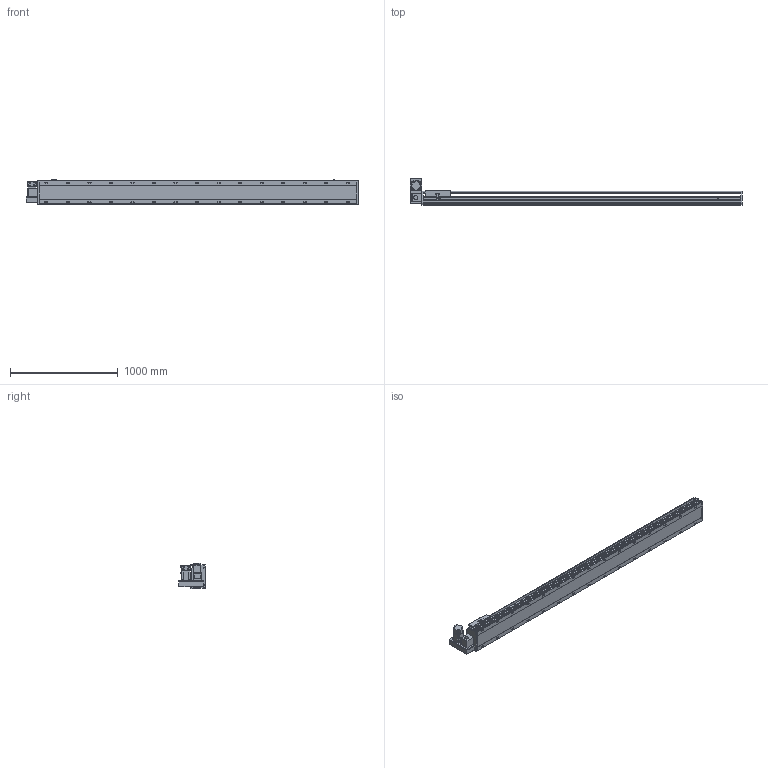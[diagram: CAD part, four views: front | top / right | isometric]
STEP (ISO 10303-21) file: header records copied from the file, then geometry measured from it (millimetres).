
FILE_DESCRIPTION(/* description */ ('STEP AP214'),/* implementation_level */ '2;1');
FILE_NAME(/* name */ 'PBS220-P40-S2600-LU-T75-C1-N(0)',/* time_stamp */ '2022-06-13T02:37:06+02:00',/* author */ ('License CC BY-ND 4.0'),/* organization */ ('CADENAS'),/* preprocessor_version */ 'ST-DEVELOPER v18.102',/* originating_system */ 'PARTsolutions',/* authorisation */ ' ');
FILE_SCHEMA (('AUTOMOTIVE_DESIGN {1 0 10303 214 3 1 1}'));
Length unit declared in the file: millimetre
Products named in the file (7): PBS220-P40-S2600-LU-T75-C1-N(0); PBS220_sensor; PBS220_plant; PBS220_sliser; T75-p1; PBS220T-LU_motors; PBS220-S2600()_body
Assembly tree (8 placements, depth 2):
  PBS220-P40-S2600-LU-T75-C1-N(0)
    PBS220_sensor  x3
    PBS220_plant
    PBS220_sliser
    T75-p1
    PBS220T-LU_motors
    PBS220-S2600()_body
Bounding box: 3084 x 247 x 238.5 mm (x, y, z)
Volume: 43009330.6 mm3; surface area: 3932712.1 mm2
Topology: 8 solids, 8 shells, 998 faces, 2592 edges, 1684 vertices
Faces by surface type: plane 626, cylinder 318, cone 54
Full cylindrical faces by diameter (mm): 2.013 x4, 4.5 x14, 4.917 x4, 6 x7, 6.647 x8, 8 x10, 8.376 x30, 8.5 x30, 10 x6, 14 x30, 38 x2, 40 x1, 70 x1
Entity records: 27813 total; most frequent: CARTESIAN_POINT 4954, DIRECTION 4833, ORIENTED_EDGE 4358, EDGE_CURVE 2179, AXIS2_PLACEMENT_3D 1737, VERTEX_POINT 1528, LINE 1359, VECTOR 1359
